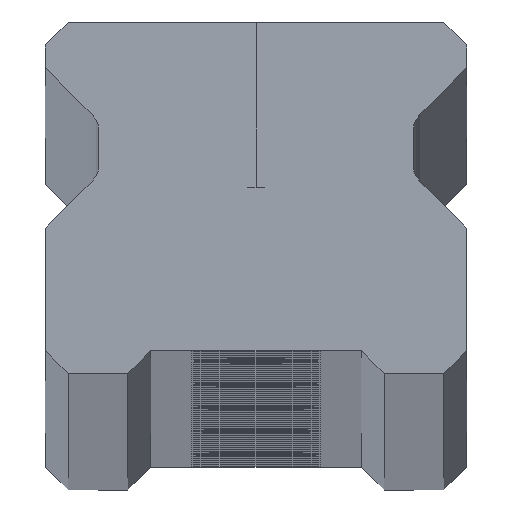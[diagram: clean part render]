
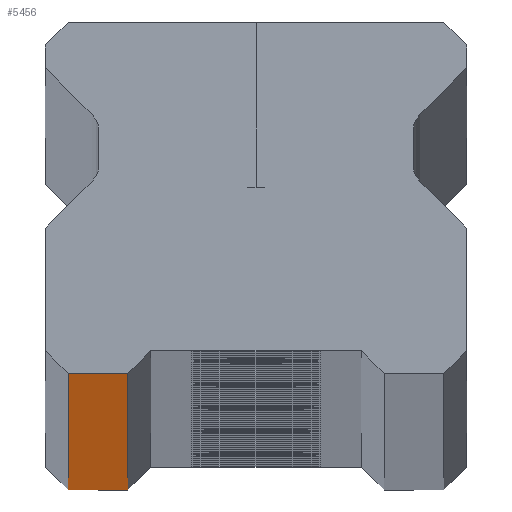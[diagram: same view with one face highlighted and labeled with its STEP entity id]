
A CAD part, top view. The second image highlights one B-rep face of the part: STEP entity #5456.
In plain terms, the highlighted planar face has unit normal (0, -1, 0).
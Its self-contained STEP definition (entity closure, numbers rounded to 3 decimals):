
#592 = VECTOR ( 'NONE', #886, 1000. ) ;
#836 = VERTEX_POINT ( 'NONE', #5076 ) ;
#886 = DIRECTION ( 'NONE',  ( 0., 0., 1. ) ) ;
#1066 = EDGE_LOOP ( 'NONE', ( #8580, #7297, #1984, #9196 ) ) ;
#1944 = VERTEX_POINT ( 'NONE', #8961 ) ;
#1984 = ORIENTED_EDGE ( 'NONE', *, *, #3812, .F. ) ;
#2097 = VECTOR ( 'NONE', #5916, 1000. ) ;
#2284 = EDGE_CURVE ( 'NONE', #4584, #836, #7970, .T. ) ;
#2764 = AXIS2_PLACEMENT_3D ( 'NONE', #9035, #8283, #9000 ) ;
#2823 = DIRECTION ( 'NONE',  ( 0., 0., -1. ) ) ;
#3291 = CARTESIAN_POINT ( 'NONE',  ( -10.25, 0., 1820. ) ) ;
#3598 = EDGE_CURVE ( 'NONE', #836, #1944, #6957, .T. ) ;
#3691 = DIRECTION ( 'NONE',  ( 1., 0., 0. ) ) ;
#3812 = EDGE_CURVE ( 'NONE', #9299, #1944, #7828, .T. ) ;
#4584 = VERTEX_POINT ( 'NONE', #5763 ) ;
#4805 = EDGE_CURVE ( 'NONE', #9299, #4584, #10135, .T. ) ;
#5076 = CARTESIAN_POINT ( 'NONE',  ( -7., 0., -1820. ) ) ;
#5456 = ADVANCED_FACE ( 'NONE', ( #8765 ), #5817, .F. ) ;
#5699 = VECTOR ( 'NONE', #3691, 1000. ) ;
#5763 = CARTESIAN_POINT ( 'NONE',  ( -10.25, 0., -1820. ) ) ;
#5817 = PLANE ( 'NONE',  #2764 ) ;
#5916 = DIRECTION ( 'NONE',  ( 1., 0., 0. ) ) ;
#6499 = CARTESIAN_POINT ( 'NONE',  ( -7., 0., -1820. ) ) ;
#6957 = LINE ( 'NONE', #6499, #592 ) ;
#7297 = ORIENTED_EDGE ( 'NONE', *, *, #3598, .T. ) ;
#7828 = LINE ( 'NONE', #9221, #5699 ) ;
#7970 = LINE ( 'NONE', #8586, #2097 ) ;
#8283 = DIRECTION ( 'NONE',  ( 0., 1., 0. ) ) ;
#8580 = ORIENTED_EDGE ( 'NONE', *, *, #2284, .T. ) ;
#8586 = CARTESIAN_POINT ( 'NONE',  ( 11.5, 0., -1820. ) ) ;
#8765 = FACE_OUTER_BOUND ( 'NONE', #1066, .T. ) ;
#8961 = CARTESIAN_POINT ( 'NONE',  ( -7., 0., 1820. ) ) ;
#9000 = DIRECTION ( 'NONE',  ( -1., 0., 0. ) ) ;
#9035 = CARTESIAN_POINT ( 'NONE',  ( 11.5, 0., 1820. ) ) ;
#9196 = ORIENTED_EDGE ( 'NONE', *, *, #4805, .T. ) ;
#9221 = CARTESIAN_POINT ( 'NONE',  ( 11.5, 0., 1820. ) ) ;
#9299 = VERTEX_POINT ( 'NONE', #3291 ) ;
#9892 = VECTOR ( 'NONE', #2823, 1000. ) ;
#10048 = CARTESIAN_POINT ( 'NONE',  ( -10.25, 0., 1820. ) ) ;
#10135 = LINE ( 'NONE', #10048, #9892 ) ;
